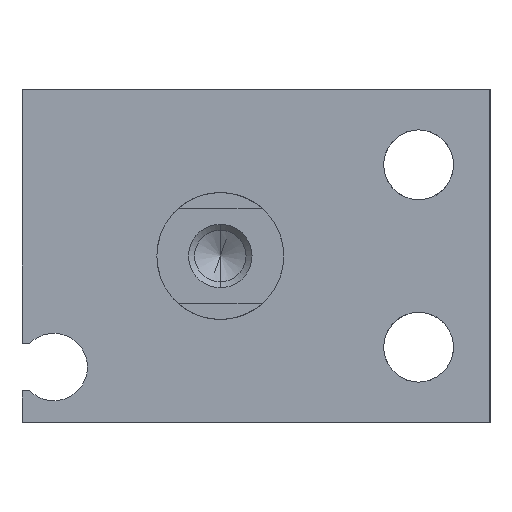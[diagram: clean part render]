
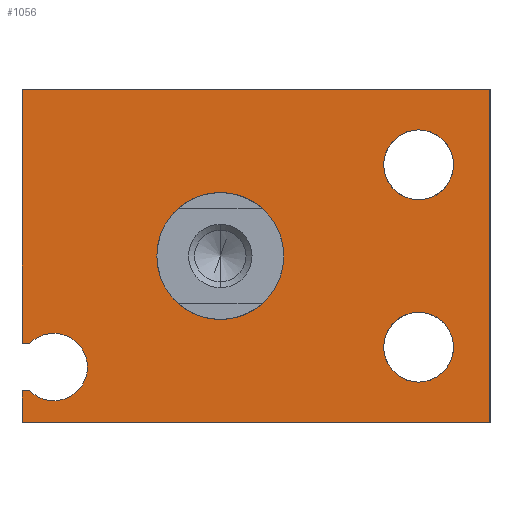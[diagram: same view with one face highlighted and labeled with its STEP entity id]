
A CAD part, left-side view. The second image highlights one B-rep face of the part: STEP entity #1056.
In plain terms, the highlighted planar face has unit normal (-1, 0, 0).
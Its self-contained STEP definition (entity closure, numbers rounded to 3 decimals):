
#20 = DIRECTION ( 'NONE',  ( 0., 0., -1. ) ) ;
#71 = CARTESIAN_POINT ( 'NONE',  ( 0., -12.5, 5.75 ) ) ;
#93 = CIRCLE ( 'NONE', #907, 2.125 ) ;
#105 = EDGE_CURVE ( 'NONE', #3013, #2447, #559, .T. ) ;
#109 = ORIENTED_EDGE ( 'NONE', *, *, #1802, .T. ) ;
#145 = VERTEX_POINT ( 'NONE', #1524 ) ;
#146 = AXIS2_PLACEMENT_3D ( 'NONE', #900, #1155, #1907 ) ;
#158 = CARTESIAN_POINT ( 'NONE',  ( 0., -17., -10.5 ) ) ;
#164 = EDGE_CURVE ( 'NONE', #548, #1435, #2902, .T. ) ;
#194 = FACE_BOUND ( 'NONE', #1118, .T. ) ;
#201 = ORIENTED_EDGE ( 'NONE', *, *, #2726, .F. ) ;
#229 = VERTEX_POINT ( 'NONE', #275 ) ;
#258 = CARTESIAN_POINT ( 'NONE',  ( 0., 10.5, -7. ) ) ;
#275 = CARTESIAN_POINT ( 'NONE',  ( 0., -12.5, -3.55 ) ) ;
#297 = VERTEX_POINT ( 'NONE', #1067 ) ;
#317 = CIRCLE ( 'NONE', #1526, 2.2 ) ;
#347 = DIRECTION ( 'NONE',  ( 0., 0., 1. ) ) ;
#387 = LINE ( 'NONE', #1870, #1406 ) ;
#478 = CARTESIAN_POINT ( 'NONE',  ( 0., -12.5, -7.95 ) ) ;
#479 = CARTESIAN_POINT ( 'NONE',  ( 0., 10.5, -7. ) ) ;
#482 = CARTESIAN_POINT ( 'NONE',  ( 0., 0., 0. ) ) ;
#497 = LINE ( 'NONE', #2628, #1412 ) ;
#514 = LINE ( 'NONE', #1695, #2965 ) ;
#529 = DIRECTION ( 'NONE',  ( 0., 0., -1. ) ) ;
#548 = VERTEX_POINT ( 'NONE', #688 ) ;
#559 = LINE ( 'NONE', #1737, #1997 ) ;
#624 = EDGE_CURVE ( 'NONE', #3122, #2648, #904, .T. ) ;
#628 = EDGE_CURVE ( 'NONE', #2871, #145, #514, .T. ) ;
#670 = VECTOR ( 'NONE', #1875, 1000. ) ;
#688 = CARTESIAN_POINT ( 'NONE',  ( 0., -12.5, 3.55 ) ) ;
#702 = FACE_BOUND ( 'NONE', #1057, .T. ) ;
#705 = AXIS2_PLACEMENT_3D ( 'NONE', #482, #3099, #20 ) ;
#769 = DIRECTION ( 'NONE',  ( 0., 0., 1. ) ) ;
#897 = ORIENTED_EDGE ( 'NONE', *, *, #3014, .F. ) ;
#900 = CARTESIAN_POINT ( 'NONE',  ( 0., -12.5, 5.75 ) ) ;
#901 = DIRECTION ( 'NONE',  ( 0., 0., -1. ) ) ;
#904 = CIRCLE ( 'NONE', #2612, 2.125 ) ;
#907 = AXIS2_PLACEMENT_3D ( 'NONE', #2079, #1854, #2800 ) ;
#923 = FACE_BOUND ( 'NONE', #2291, .T. ) ;
#941 = CARTESIAN_POINT ( 'NONE',  ( 0., 12.5, -5.5 ) ) ;
#945 = DIRECTION ( 'NONE',  ( -1., 0., 0. ) ) ;
#1056 = ADVANCED_FACE ( 'NONE', ( #2644, #194, #702, #923 ), #1929, .T. ) ;
#1057 = EDGE_LOOP ( 'NONE', ( #201, #2757 ) ) ;
#1067 = CARTESIAN_POINT ( 'NONE',  ( 0., 12.005, -5.5 ) ) ;
#1117 = VERTEX_POINT ( 'NONE', #158 ) ;
#1118 = EDGE_LOOP ( 'NONE', ( #2626, #2396 ) ) ;
#1155 = DIRECTION ( 'NONE',  ( -1., 0., 0. ) ) ;
#1185 = EDGE_CURVE ( 'NONE', #1353, #229, #317, .T. ) ;
#1196 = DIRECTION ( 'NONE',  ( 0., 1., 0. ) ) ;
#1212 = DIRECTION ( 'NONE',  ( -1., 0., 0. ) ) ;
#1228 = LINE ( 'NONE', #2615, #2609 ) ;
#1253 = ORIENTED_EDGE ( 'NONE', *, *, #2499, .T. ) ;
#1292 = DIRECTION ( 'NONE',  ( -1., 0., 0. ) ) ;
#1314 = DIRECTION ( 'NONE',  ( -1., 0., 0. ) ) ;
#1327 = VERTEX_POINT ( 'NONE', #3063 ) ;
#1334 = DIRECTION ( 'NONE',  ( -1., 0., 0. ) ) ;
#1339 = ORIENTED_EDGE ( 'NONE', *, *, #628, .T. ) ;
#1351 = DIRECTION ( 'NONE',  ( 0., -1., 0. ) ) ;
#1353 = VERTEX_POINT ( 'NONE', #478 ) ;
#1357 = CARTESIAN_POINT ( 'NONE',  ( 0., -17., 10.5 ) ) ;
#1361 = AXIS2_PLACEMENT_3D ( 'NONE', #2510, #1314, #347 ) ;
#1372 = AXIS2_PLACEMENT_3D ( 'NONE', #2159, #1908, #901 ) ;
#1403 = DIRECTION ( 'NONE',  ( 0., 0., 1. ) ) ;
#1406 = VECTOR ( 'NONE', #1351, 1000. ) ;
#1412 = VECTOR ( 'NONE', #1196, 1000. ) ;
#1414 = ORIENTED_EDGE ( 'NONE', *, *, #164, .F. ) ;
#1433 = CARTESIAN_POINT ( 'NONE',  ( 0., 0., 4. ) ) ;
#1435 = VERTEX_POINT ( 'NONE', #2374 ) ;
#1507 = CIRCLE ( 'NONE', #1958, 2.125 ) ;
#1510 = ORIENTED_EDGE ( 'NONE', *, *, #105, .T. ) ;
#1521 = CARTESIAN_POINT ( 'NONE',  ( 0., 0., -4. ) ) ;
#1524 = CARTESIAN_POINT ( 'NONE',  ( 0., 12.5, -10.5 ) ) ;
#1526 = AXIS2_PLACEMENT_3D ( 'NONE', #1565, #1334, #3044 ) ;
#1541 = AXIS2_PLACEMENT_3D ( 'NONE', #71, #1292, #2145 ) ;
#1565 = CARTESIAN_POINT ( 'NONE',  ( 0., -12.5, -5.75 ) ) ;
#1656 = LINE ( 'NONE', #2620, #670 ) ;
#1662 = DIRECTION ( 'NONE',  ( 0., 0., 1. ) ) ;
#1680 = ORIENTED_EDGE ( 'NONE', *, *, #2961, .T. ) ;
#1690 = DIRECTION ( 'NONE',  ( -1., 0., 0. ) ) ;
#1695 = CARTESIAN_POINT ( 'NONE',  ( 0., 12.5, -8.5 ) ) ;
#1737 = CARTESIAN_POINT ( 'NONE',  ( 0., 12.5, 10.5 ) ) ;
#1742 = EDGE_CURVE ( 'NONE', #2546, #2063, #2733, .T. ) ;
#1791 = EDGE_LOOP ( 'NONE', ( #1680, #109, #2357, #1510, #3038, #2090, #3116, #897, #1253, #1339 ) ) ;
#1802 = EDGE_CURVE ( 'NONE', #1117, #2758, #1656, .T. ) ;
#1854 = DIRECTION ( 'NONE',  ( -1., 0., 0. ) ) ;
#1870 = CARTESIAN_POINT ( 'NONE',  ( 0., 12.5, -10.5 ) ) ;
#1875 = DIRECTION ( 'NONE',  ( 0., 0., 1. ) ) ;
#1877 = AXIS2_PLACEMENT_3D ( 'NONE', #479, #1690, #1662 ) ;
#1888 = CARTESIAN_POINT ( 'NONE',  ( 0., 12.5, 10.5 ) ) ;
#1907 = DIRECTION ( 'NONE',  ( 0., 0., 1. ) ) ;
#1908 = DIRECTION ( 'NONE',  ( 1., 0., 0. ) ) ;
#1929 = PLANE ( 'NONE',  #1877 ) ;
#1958 = AXIS2_PLACEMENT_3D ( 'NONE', #2618, #945, #1403 ) ;
#1997 = VECTOR ( 'NONE', #3104, 1000. ) ;
#2063 = VERTEX_POINT ( 'NONE', #1521 ) ;
#2079 = CARTESIAN_POINT ( 'NONE',  ( 0., 10.5, -7. ) ) ;
#2090 = ORIENTED_EDGE ( 'NONE', *, *, #2746, .F. ) ;
#2109 = DIRECTION ( 'NONE',  ( 0., -1., 0. ) ) ;
#2145 = DIRECTION ( 'NONE',  ( 0., 0., 1. ) ) ;
#2159 = CARTESIAN_POINT ( 'NONE',  ( 0., 0., 0. ) ) ;
#2291 = EDGE_LOOP ( 'NONE', ( #2393, #1414 ) ) ;
#2315 = CIRCLE ( 'NONE', #1361, 2.2 ) ;
#2357 = ORIENTED_EDGE ( 'NONE', *, *, #2614, .T. ) ;
#2374 = CARTESIAN_POINT ( 'NONE',  ( 0., -12.5, 7.95 ) ) ;
#2381 = DIRECTION ( 'NONE',  ( 0., 1., 0. ) ) ;
#2393 = ORIENTED_EDGE ( 'NONE', *, *, #2767, .F. ) ;
#2396 = ORIENTED_EDGE ( 'NONE', *, *, #1742, .T. ) ;
#2447 = VERTEX_POINT ( 'NONE', #941 ) ;
#2486 = CARTESIAN_POINT ( 'NONE',  ( 0., 10.5, -4.875 ) ) ;
#2499 = EDGE_CURVE ( 'NONE', #1327, #2871, #1228, .T. ) ;
#2510 = CARTESIAN_POINT ( 'NONE',  ( 0., -12.5, -5.75 ) ) ;
#2517 = CIRCLE ( 'NONE', #705, 4. ) ;
#2546 = VERTEX_POINT ( 'NONE', #1433 ) ;
#2566 = CARTESIAN_POINT ( 'NONE',  ( 0., 12.5, -5.5 ) ) ;
#2597 = EDGE_CURVE ( 'NONE', #2063, #2546, #2517, .T. ) ;
#2598 = CARTESIAN_POINT ( 'NONE',  ( 0., 10.5, -9.125 ) ) ;
#2609 = VECTOR ( 'NONE', #2381, 1000. ) ;
#2612 = AXIS2_PLACEMENT_3D ( 'NONE', #258, #1212, #769 ) ;
#2614 = EDGE_CURVE ( 'NONE', #2758, #3013, #497, .T. ) ;
#2615 = CARTESIAN_POINT ( 'NONE',  ( 0., 12.005, -8.5 ) ) ;
#2618 = CARTESIAN_POINT ( 'NONE',  ( 0., 10.5, -7. ) ) ;
#2620 = CARTESIAN_POINT ( 'NONE',  ( 0., -17., -10.5 ) ) ;
#2626 = ORIENTED_EDGE ( 'NONE', *, *, #2597, .T. ) ;
#2628 = CARTESIAN_POINT ( 'NONE',  ( 0., -17., 10.5 ) ) ;
#2644 = FACE_OUTER_BOUND ( 'NONE', #1791, .T. ) ;
#2648 = VERTEX_POINT ( 'NONE', #2486 ) ;
#2726 = EDGE_CURVE ( 'NONE', #229, #1353, #2315, .T. ) ;
#2733 = CIRCLE ( 'NONE', #1372, 4. ) ;
#2746 = EDGE_CURVE ( 'NONE', #2648, #297, #1507, .T. ) ;
#2757 = ORIENTED_EDGE ( 'NONE', *, *, #1185, .F. ) ;
#2758 = VERTEX_POINT ( 'NONE', #1357 ) ;
#2767 = EDGE_CURVE ( 'NONE', #1435, #548, #2770, .T. ) ;
#2770 = CIRCLE ( 'NONE', #146, 2.2 ) ;
#2800 = DIRECTION ( 'NONE',  ( 0., 0., 1. ) ) ;
#2871 = VERTEX_POINT ( 'NONE', #2900 ) ;
#2900 = CARTESIAN_POINT ( 'NONE',  ( 0., 12.5, -8.5 ) ) ;
#2902 = CIRCLE ( 'NONE', #1541, 2.2 ) ;
#2961 = EDGE_CURVE ( 'NONE', #145, #1117, #387, .T. ) ;
#2965 = VECTOR ( 'NONE', #529, 1000. ) ;
#3013 = VERTEX_POINT ( 'NONE', #1888 ) ;
#3014 = EDGE_CURVE ( 'NONE', #1327, #3122, #93, .T. ) ;
#3038 = ORIENTED_EDGE ( 'NONE', *, *, #3053, .T. ) ;
#3044 = DIRECTION ( 'NONE',  ( 0., 0., 1. ) ) ;
#3053 = EDGE_CURVE ( 'NONE', #2447, #297, #3069, .T. ) ;
#3063 = CARTESIAN_POINT ( 'NONE',  ( 0., 12.005, -8.5 ) ) ;
#3068 = VECTOR ( 'NONE', #2109, 1000. ) ;
#3069 = LINE ( 'NONE', #2566, #3068 ) ;
#3099 = DIRECTION ( 'NONE',  ( 1., 0., 0. ) ) ;
#3104 = DIRECTION ( 'NONE',  ( 0., 0., -1. ) ) ;
#3116 = ORIENTED_EDGE ( 'NONE', *, *, #624, .F. ) ;
#3122 = VERTEX_POINT ( 'NONE', #2598 ) ;
